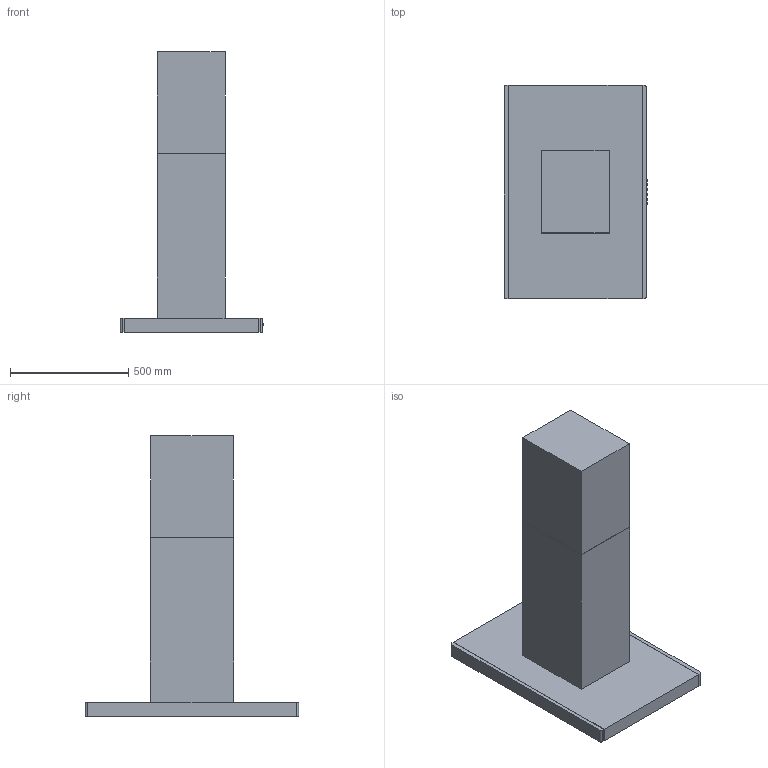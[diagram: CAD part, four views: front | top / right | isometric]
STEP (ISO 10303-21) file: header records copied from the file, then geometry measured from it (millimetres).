
FILE_DESCRIPTION(('CATIA V5 STEP Exchange'),'2;1');
FILE_NAME('K:\DISEGNI\SMEG\CAPPE\KI90XE\BIM\KI90XE.stp','2018-09-11T14:36:12+00:00',('none'),('none'),'CATIA Version 5-6 Release 2014 SP6','CATIA V5 STEP AP203','none');
FILE_SCHEMA(('CONFIG_CONTROL_DESIGN'));
Length unit declared in the file: millimetre
Products named in the file (1): KI90XE
Bounding box: 606 x 900 x 1185 mm (x, y, z)
Volume: 145285643.3 mm3; surface area: 4272703.1 mm2
Topology: 14 solids, 14 shells, 135 faces, 268 edges, 176 vertices
Faces by surface type: plane 95, cylinder 40
Entity records: 3165 total; most frequent: CARTESIAN_POINT 540, ORIENTED_EDGE 536, DIRECTION 434, EDGE_CURVE 268, VECTOR 180, LINE 180, VERTEX_POINT 176, AXIS2_PLACEMENT_3D 168
